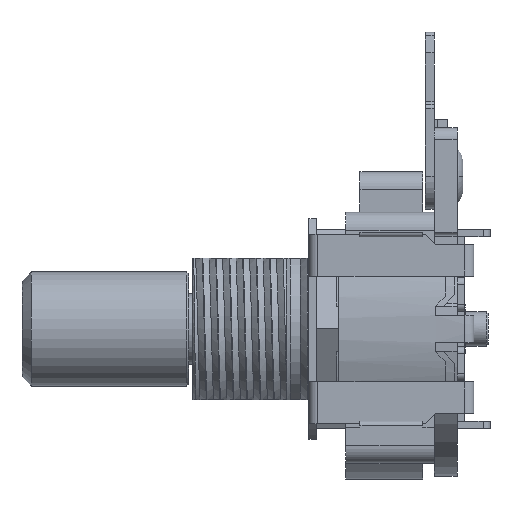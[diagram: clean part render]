
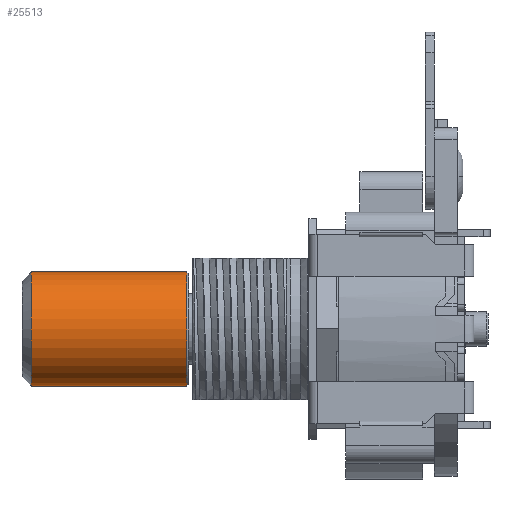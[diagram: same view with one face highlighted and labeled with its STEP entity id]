
A CAD part, left-side view. The second image highlights one B-rep face of the part: STEP entity #25513.
In plain terms, the highlighted cylindrical face has radius 3.175 mm (diameter 6.35 mm), a partial arc.
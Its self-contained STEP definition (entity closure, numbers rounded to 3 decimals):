
#3279 = VERTEX_POINT ( 'NONE', #9648 ) ;
#3458 = DIRECTION ( 'NONE',  ( 0., -1., 0. ) ) ;
#4520 = EDGE_CURVE ( 'NONE', #10643, #3279, #21436, .T. ) ;
#5174 = AXIS2_PLACEMENT_3D ( 'NONE', #11138, #7352, #23298 ) ;
#7132 = VECTOR ( 'NONE', #3458, 1000. ) ;
#7352 = DIRECTION ( 'NONE',  ( 0., -1., 0. ) ) ;
#7379 = LINE ( 'NONE', #16921, #7132 ) ;
#7510 = CARTESIAN_POINT ( 'NONE',  ( 0., 0., 0. ) ) ;
#8185 = CARTESIAN_POINT ( 'NONE',  ( 0., 25.451, -3.175 ) ) ;
#8956 = VECTOR ( 'NONE', #25571, 1000. ) ;
#9647 = AXIS2_PLACEMENT_3D ( 'NONE', #7510, #17446, #21127 ) ;
#9648 = CARTESIAN_POINT ( 'NONE',  ( 0., 16.789, -3.175 ) ) ;
#9728 = AXIS2_PLACEMENT_3D ( 'NONE', #15784, #16044, #23898 ) ;
#10643 = VERTEX_POINT ( 'NONE', #16404 ) ;
#10703 = EDGE_CURVE ( 'NONE', #23712, #3279, #7379, .T. ) ;
#11138 = CARTESIAN_POINT ( 'NONE',  ( 0., 25.451, 0. ) ) ;
#11505 = ORIENTED_EDGE ( 'NONE', *, *, #4520, .F. ) ;
#12222 = EDGE_LOOP ( 'NONE', ( #21205, #17617, #12879, #11505 ) ) ;
#12879 = ORIENTED_EDGE ( 'NONE', *, *, #10703, .T. ) ;
#13450 = VERTEX_POINT ( 'NONE', #22233 ) ;
#13538 = LINE ( 'NONE', #13664, #8956 ) ;
#13664 = CARTESIAN_POINT ( 'NONE',  ( 0., 0., 3.175 ) ) ;
#15784 = CARTESIAN_POINT ( 'NONE',  ( 0., 16.789, 0. ) ) ;
#16044 = DIRECTION ( 'NONE',  ( 0., -1., 0. ) ) ;
#16404 = CARTESIAN_POINT ( 'NONE',  ( 0., 16.789, 3.175 ) ) ;
#16921 = CARTESIAN_POINT ( 'NONE',  ( 0., 0., -3.175 ) ) ;
#17446 = DIRECTION ( 'NONE',  ( 0., -1., 0. ) ) ;
#17617 = ORIENTED_EDGE ( 'NONE', *, *, #18003, .T. ) ;
#18003 = EDGE_CURVE ( 'NONE', #13450, #23712, #24812, .T. ) ;
#18973 = EDGE_CURVE ( 'NONE', #13450, #10643, #13538, .T. ) ;
#20990 = FACE_OUTER_BOUND ( 'NONE', #12222, .T. ) ;
#21127 = DIRECTION ( 'NONE',  ( 0., 0., -1. ) ) ;
#21205 = ORIENTED_EDGE ( 'NONE', *, *, #18973, .F. ) ;
#21436 = CIRCLE ( 'NONE', #9728, 3.175 ) ;
#21516 = CYLINDRICAL_SURFACE ( 'NONE', #9647, 3.175 ) ;
#22233 = CARTESIAN_POINT ( 'NONE',  ( 0., 25.451, 3.175 ) ) ;
#23298 = DIRECTION ( 'NONE',  ( 0., 0., -1. ) ) ;
#23712 = VERTEX_POINT ( 'NONE', #8185 ) ;
#23898 = DIRECTION ( 'NONE',  ( 0., 0., -1. ) ) ;
#24812 = CIRCLE ( 'NONE', #5174, 3.175 ) ;
#25513 = ADVANCED_FACE ( 'NONE', ( #20990 ), #21516, .T. ) ;
#25571 = DIRECTION ( 'NONE',  ( 0., -1., 0. ) ) ;
